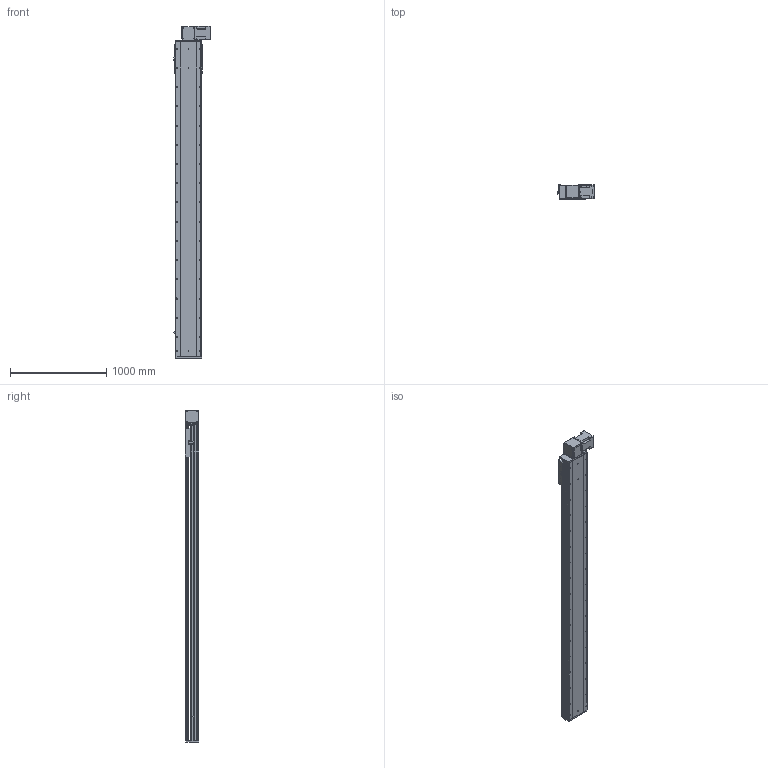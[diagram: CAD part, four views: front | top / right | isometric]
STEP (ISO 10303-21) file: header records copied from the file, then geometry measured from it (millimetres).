
FILE_DESCRIPTION (( 'STEP AP214' ), '1' );
FILE_NAME ('RTB28S-XX-2850-BL-M100-XX-C4.STEP', '2025-12-22T02:35:42', ( '' ), ( '' ), 'SwSTEP 2.0', 'SolidWorks 2018', '' );
FILE_SCHEMA (( 'AUTOMOTIVE_DESIGN' ));
Length unit declared in the file: millimetre
Products named in the file (4): RTB28S-GY-008^RTB28S-XX-XX-BL-M100-XX-C4; RTB28S-GY-004^RTB28S-XX-XX-BL-M100-XX-C4; RTB28S-GY-011^RTB28S-XX-XX-BL-M100-XX-C4; RTB28S-XX-2850-BL-M100-XX-C4
Assembly tree (3 placements, depth 2):
  RTB28S-XX-2850-BL-M100-XX-C4
    RTB28S-GY-011^RTB28S-XX-XX-BL-M100-XX-C4
    RTB28S-GY-004^RTB28S-XX-XX-BL-M100-XX-C4
    RTB28S-GY-008^RTB28S-XX-XX-BL-M100-XX-C4
Bounding box: 380.7 x 145 x 3457 mm (x, y, z)
Volume: 58749962.7 mm3; surface area: 5490022.3 mm2
Topology: 3 solids, 4 shells, 878 faces, 2358 edges, 1508 vertices
Faces by surface type: cylinder 431, plane 363, cone 80, torus 4
Entity records: 33887 total; most frequent: CARTESIAN_POINT 6352, DIRECTION 5016, ORIENTED_EDGE 4652, EDGE_CURVE 2326, AXIS2_PLACEMENT_3D 1848, VERTEX_POINT 1508, LINE 1320, VECTOR 1320
